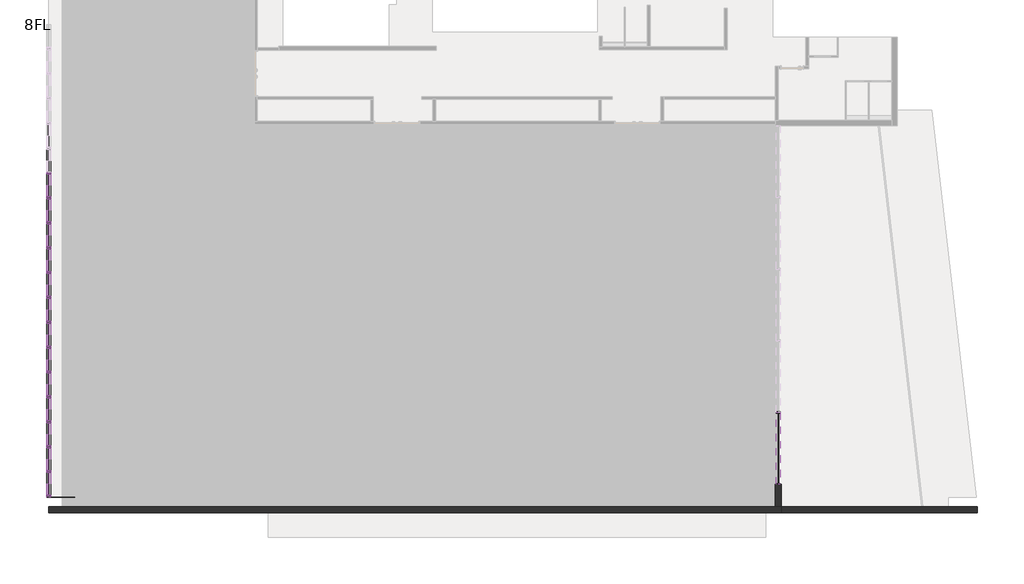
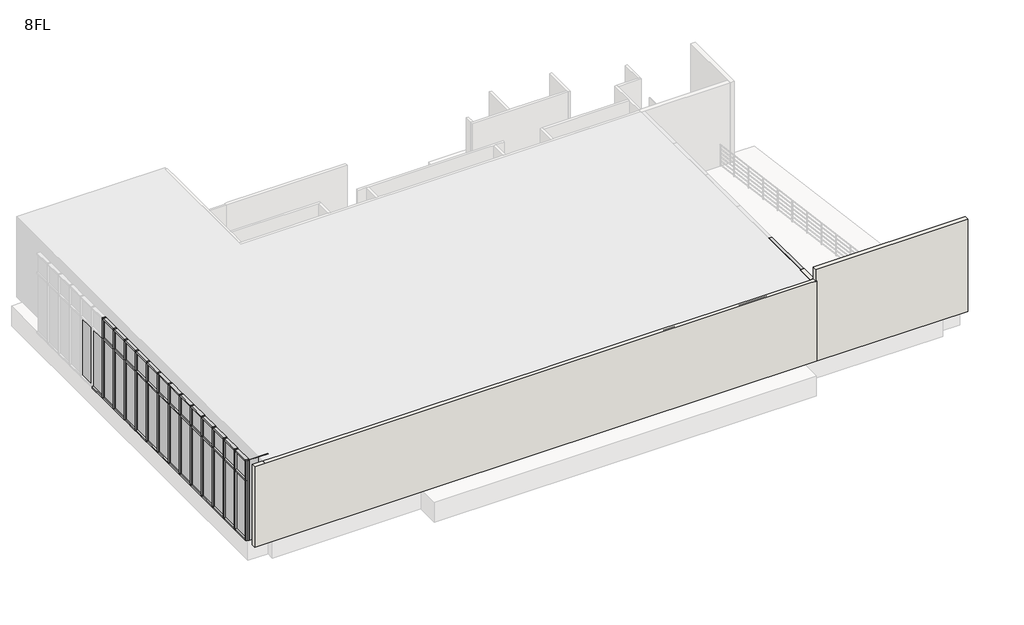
# One storey, part 1 of 3: 71 members, 31 plates, 3 walls.
"""IFC4 building model written with IfcOpenShell, lengths in millimetres."""

from ifc_helpers import new_model, si_unit, frame, origin, place, context, project, spatial, polyline, outline, extrude, faceted_brep, transform, mapped, element, save
from components import member_25x150_64c6ad17, member_25x150_5b56dd58, member_70x150_6224b0b0, member_70x150_cdd4dcf9, member_70x150_66cf63de, member_70x150_26475b18, member_70x150_ad4265bc, member_70x150_76429c73, member_70x150_1b280ac3, plate_d1366ea1, plate_ab860a3c, plate_c3b39e59, plate_28587fd3, plate_396bcf3c

model = new_model("IFC4")

# Units and contexts
model_context = context("Model", 3, world=origin())
ifc_project = project(units=[si_unit("LENGTHUNIT", "METRE", prefix="MILLI")], contexts=[model_context])

# Site, building, storey
site = spatial("IfcSite", under=ifc_project)
building = spatial("IfcBuilding", under=site)
storey = spatial("IfcBuildingStorey", under=building, Name="8FL", Elevation=28600.0)

# Members
placement = place(None, origin())
member_25x150_shape = member_25x150_64c6ad17(model_context)
element("IfcMember", 1, ObjectType="長方形のマリオン : 25x150", at=placement, inside=storey, context=model_context, shape_type="MappedRepresentation", body=[
    mapped(member_25x150_shape, transform((-2945.9784025, -2625.3131013, 32575.0), x_axis=(0.0, -1.0, 0.0), y_axis=(1.0, 0.0, 0.0), z_axis=(0.0, 0.0, 1.0))),
])
member_25x150_2_shape = member_25x150_5b56dd58(model_context)
element("IfcMember", 2, ObjectType="長方形のマリオン : 25x150", at=placement, inside=storey, context=model_context, shape_type="MappedRepresentation", body=[
    mapped(member_25x150_2_shape, transform((-2945.9784025, -30.3131013, 32600.0), x_axis=(0.0, 0.0, 1.0), y_axis=(1.0, 0.0, 0.0), z_axis=(0.0, 1.0, 0.0))),
])
member_70x150_shape = member_70x150_6224b0b0(model_context)
element("IfcMember", 3, ObjectType="長方形のマリオン : 70x150", at=placement, inside=storey, context=model_context, shape_type="MappedRepresentation", body=[
    mapped(member_70x150_shape, transform((-2945.9784025, -30.3131013, 28600.0), x_axis=(0.0, 1.0, 0.0), y_axis=(1.0, 0.0, 0.0), z_axis=(0.0, 0.0, -1.0))),
])
member_70x150_2_shape = member_70x150_cdd4dcf9(model_context)
element("IfcMember", 4, ObjectType="長方形のマリオン : 70x150", at=placement, inside=storey, context=model_context, shape_type="MappedRepresentation", body=[
    mapped(member_70x150_2_shape, transform((-29345.9784025, 8634.6868987, 28600.0), x_axis=(0.0, 1.0, 0.0), y_axis=(1.0, 0.0, 0.0), z_axis=(0.0, 0.0, -1.0))),
])
element("IfcMember", 5, ObjectType="長方形のマリオン : 70x150", at=placement, inside=storey, context=model_context, shape_type="MappedRepresentation", body=[
    mapped(member_70x150_2_shape, transform((-29345.9784025, 7734.6868987, 28600.0), x_axis=(0.0, 1.0, 0.0), y_axis=(1.0, 0.0, 0.0), z_axis=(0.0, 0.0, -1.0))),
])
element("IfcMember", 6, ObjectType="長方形のマリオン : 70x150", at=placement, inside=storey, context=model_context, shape_type="MappedRepresentation", body=[
    mapped(member_70x150_2_shape, transform((-29345.9784025, 6834.6868987, 28600.0), x_axis=(0.0, 1.0, 0.0), y_axis=(1.0, 0.0, 0.0), z_axis=(0.0, 0.0, -1.0))),
])
element("IfcMember", 7, ObjectType="長方形のマリオン : 70x150", at=placement, inside=storey, context=model_context, shape_type="MappedRepresentation", body=[
    mapped(member_70x150_2_shape, transform((-29345.9784025, 5934.6868987, 28600.0), x_axis=(0.0, 1.0, 0.0), y_axis=(1.0, 0.0, 0.0), z_axis=(0.0, 0.0, -1.0))),
])
element("IfcMember", 8, ObjectType="長方形のマリオン : 70x150", at=placement, inside=storey, context=model_context, shape_type="MappedRepresentation", body=[
    mapped(member_70x150_2_shape, transform((-29345.9784025, 5034.6868987, 28600.0), x_axis=(0.0, 1.0, 0.0), y_axis=(1.0, 0.0, 0.0), z_axis=(0.0, 0.0, -1.0))),
])
element("IfcMember", 9, ObjectType="長方形のマリオン : 70x150", at=placement, inside=storey, context=model_context, shape_type="MappedRepresentation", body=[
    mapped(member_70x150_2_shape, transform((-29345.9784025, 4134.6868987, 28600.0), x_axis=(0.0, 1.0, 0.0), y_axis=(1.0, 0.0, 0.0), z_axis=(0.0, 0.0, -1.0))),
])
element("IfcMember", 10, ObjectType="長方形のマリオン : 70x150", at=placement, inside=storey, context=model_context, shape_type="MappedRepresentation", body=[
    mapped(member_70x150_2_shape, transform((-29345.9784025, 3234.6868987, 28600.0), x_axis=(0.0, 1.0, 0.0), y_axis=(1.0, 0.0, 0.0), z_axis=(0.0, 0.0, -1.0))),
])
element("IfcMember", 11, ObjectType="長方形のマリオン : 70x150", at=placement, inside=storey, context=model_context, shape_type="MappedRepresentation", body=[
    mapped(member_70x150_2_shape, transform((-29345.9784025, 2334.6868987, 28600.0), x_axis=(0.0, 1.0, 0.0), y_axis=(1.0, 0.0, 0.0), z_axis=(0.0, 0.0, -1.0))),
])
element("IfcMember", 12, ObjectType="長方形のマリオン : 70x150", at=placement, inside=storey, context=model_context, shape_type="MappedRepresentation", body=[
    mapped(member_70x150_2_shape, transform((-29345.9784025, 1434.6868987, 28600.0), x_axis=(0.0, 1.0, 0.0), y_axis=(1.0, 0.0, 0.0), z_axis=(0.0, 0.0, -1.0))),
])
element("IfcMember", 13, ObjectType="長方形のマリオン : 70x150", at=placement, inside=storey, context=model_context, shape_type="MappedRepresentation", body=[
    mapped(member_70x150_2_shape, transform((-29345.9784025, 534.6868987, 28600.0), x_axis=(0.0, 1.0, 0.0), y_axis=(1.0, 0.0, 0.0), z_axis=(0.0, 0.0, -1.0))),
])
element("IfcMember", 14, ObjectType="長方形のマリオン : 70x150", at=placement, inside=storey, context=model_context, shape_type="MappedRepresentation", body=[
    mapped(member_70x150_2_shape, transform((-29345.9784025, -365.3131013, 28600.0), x_axis=(0.0, 1.0, 0.0), y_axis=(1.0, 0.0, 0.0), z_axis=(0.0, 0.0, -1.0))),
])
element("IfcMember", 15, ObjectType="長方形のマリオン : 70x150", at=placement, inside=storey, context=model_context, shape_type="MappedRepresentation", body=[
    mapped(member_70x150_2_shape, transform((-29345.9784025, -1265.3131013, 28600.0), x_axis=(0.0, 1.0, 0.0), y_axis=(1.0, 0.0, 0.0), z_axis=(0.0, 0.0, -1.0))),
])
element("IfcMember", 16, ObjectType="長方形のマリオン : 70x150", at=placement, inside=storey, context=model_context, shape_type="MappedRepresentation", body=[
    mapped(member_70x150_2_shape, transform((-29345.9784025, -2165.3131013, 28600.0), x_axis=(0.0, 1.0, 0.0), y_axis=(1.0, 0.0, 0.0), z_axis=(0.0, 0.0, -1.0))),
])
member_70x150_3_shape = member_70x150_66cf63de(model_context)
element("IfcMember", 17, ObjectType="長方形のマリオン : 70x150", at=placement, inside=storey, context=model_context, shape_type="MappedRepresentation", body=[
    mapped(member_70x150_3_shape, transform((-29345.9784025, 1469.6868987, 28600.0), x_axis=(0.0, 0.0, -1.0), y_axis=(1.0, 0.0, 0.0), z_axis=(0.0, -1.0, 0.0))),
])
element("IfcMember", 18, ObjectType="長方形のマリオン : 70x150", at=placement, inside=storey, context=model_context, shape_type="MappedRepresentation", body=[
    mapped(member_70x150_3_shape, transform((-29345.9784025, 569.6868987, 28600.0), x_axis=(0.0, 0.0, -1.0), y_axis=(1.0, 0.0, 0.0), z_axis=(0.0, -1.0, 0.0))),
])
element("IfcMember", 19, ObjectType="長方形のマリオン : 70x150", at=placement, inside=storey, context=model_context, shape_type="MappedRepresentation", body=[
    mapped(member_70x150_3_shape, transform((-29345.9784025, -330.3131013, 28600.0), x_axis=(0.0, 0.0, -1.0), y_axis=(1.0, 0.0, 0.0), z_axis=(0.0, -1.0, 0.0))),
])
element("IfcMember", 20, ObjectType="長方形のマリオン : 70x150", at=placement, inside=storey, context=model_context, shape_type="MappedRepresentation", body=[
    mapped(member_70x150_3_shape, transform((-29345.9784025, -1230.3131013, 28600.0), x_axis=(0.0, 0.0, -1.0), y_axis=(1.0, 0.0, 0.0), z_axis=(0.0, -1.0, 0.0))),
])
element("IfcMember", 21, ObjectType="長方形のマリオン : 70x150", at=placement, inside=storey, context=model_context, shape_type="MappedRepresentation", body=[
    mapped(member_70x150_3_shape, transform((-29345.9784025, -2130.3131013, 28600.0), x_axis=(0.0, 0.0, -1.0), y_axis=(1.0, 0.0, 0.0), z_axis=(0.0, -1.0, 0.0))),
])
element("IfcMember", 22, ObjectType="長方形のマリオン : 70x150", at=placement, inside=storey, context=model_context, shape_type="MappedRepresentation", body=[
    mapped(member_70x150_3_shape, transform((-29345.9784025, -3030.3131013, 28600.0), x_axis=(0.0, 0.0, -1.0), y_axis=(1.0, 0.0, 0.0), z_axis=(0.0, -1.0, 0.0))),
])
element("IfcMember", 23, ObjectType="長方形のマリオン : 70x150", at=placement, inside=storey, context=model_context, shape_type="MappedRepresentation", body=[
    mapped(member_70x150_3_shape, transform((-29345.9784025, 8669.6868987, 28600.0), x_axis=(0.0, 0.0, -1.0), y_axis=(1.0, 0.0, 0.0), z_axis=(0.0, -1.0, 0.0))),
])
element("IfcMember", 24, ObjectType="長方形のマリオン : 70x150", at=placement, inside=storey, context=model_context, shape_type="MappedRepresentation", body=[
    mapped(member_70x150_3_shape, transform((-29345.9784025, 7769.6868987, 28600.0), x_axis=(0.0, 0.0, -1.0), y_axis=(1.0, 0.0, 0.0), z_axis=(0.0, -1.0, 0.0))),
])
element("IfcMember", 25, ObjectType="長方形のマリオン : 70x150", at=placement, inside=storey, context=model_context, shape_type="MappedRepresentation", body=[
    mapped(member_70x150_3_shape, transform((-29345.9784025, 6869.6868987, 28600.0), x_axis=(0.0, 0.0, -1.0), y_axis=(1.0, 0.0, 0.0), z_axis=(0.0, -1.0, 0.0))),
])
element("IfcMember", 26, ObjectType="長方形のマリオン : 70x150", at=placement, inside=storey, context=model_context, shape_type="MappedRepresentation", body=[
    mapped(member_70x150_3_shape, transform((-29345.9784025, 5969.6868987, 28600.0), x_axis=(0.0, 0.0, -1.0), y_axis=(1.0, 0.0, 0.0), z_axis=(0.0, -1.0, 0.0))),
])
element("IfcMember", 27, ObjectType="長方形のマリオン : 70x150", at=placement, inside=storey, context=model_context, shape_type="MappedRepresentation", body=[
    mapped(member_70x150_3_shape, transform((-29345.9784025, 5069.6868987, 28600.0), x_axis=(0.0, 0.0, -1.0), y_axis=(1.0, 0.0, 0.0), z_axis=(0.0, -1.0, 0.0))),
])
element("IfcMember", 28, ObjectType="長方形のマリオン : 70x150", at=placement, inside=storey, context=model_context, shape_type="MappedRepresentation", body=[
    mapped(member_70x150_3_shape, transform((-29345.9784025, 4169.6868987, 28600.0), x_axis=(0.0, 0.0, -1.0), y_axis=(1.0, 0.0, 0.0), z_axis=(0.0, -1.0, 0.0))),
])
element("IfcMember", 29, ObjectType="長方形のマリオン : 70x150", at=placement, inside=storey, context=model_context, shape_type="MappedRepresentation", body=[
    mapped(member_70x150_3_shape, transform((-29345.9784025, 3269.6868987, 28600.0), x_axis=(0.0, 0.0, -1.0), y_axis=(1.0, 0.0, 0.0), z_axis=(0.0, -1.0, 0.0))),
])
element("IfcMember", 30, ObjectType="長方形のマリオン : 70x150", at=placement, inside=storey, context=model_context, shape_type="MappedRepresentation", body=[
    mapped(member_70x150_3_shape, transform((-29345.9784025, 2369.6868987, 28600.0), x_axis=(0.0, 0.0, -1.0), y_axis=(1.0, 0.0, 0.0), z_axis=(0.0, -1.0, 0.0))),
])
element("IfcMember", 31, ObjectType="長方形のマリオン : 70x150", at=placement, inside=storey, context=model_context, shape_type="MappedRepresentation", body=[
    mapped(member_70x150_3_shape, transform((-29345.9784025, 8599.6868987, 32600.0), x_axis=(0.0, 0.0, 1.0), y_axis=(1.0, 0.0, 0.0), z_axis=(0.0, 1.0, 0.0))),
])
element("IfcMember", 32, ObjectType="長方形のマリオン : 70x150", at=placement, inside=storey, context=model_context, shape_type="MappedRepresentation", body=[
    mapped(member_70x150_3_shape, transform((-29345.9784025, 7699.6868987, 32600.0), x_axis=(0.0, 0.0, 1.0), y_axis=(1.0, 0.0, 0.0), z_axis=(0.0, 1.0, 0.0))),
])
element("IfcMember", 33, ObjectType="長方形のマリオン : 70x150", at=placement, inside=storey, context=model_context, shape_type="MappedRepresentation", body=[
    mapped(member_70x150_3_shape, transform((-29345.9784025, 6799.6868987, 32600.0), x_axis=(0.0, 0.0, 1.0), y_axis=(1.0, 0.0, 0.0), z_axis=(0.0, 1.0, 0.0))),
])
element("IfcMember", 34, ObjectType="長方形のマリオン : 70x150", at=placement, inside=storey, context=model_context, shape_type="MappedRepresentation", body=[
    mapped(member_70x150_3_shape, transform((-29345.9784025, 5899.6868987, 32600.0), x_axis=(0.0, 0.0, 1.0), y_axis=(1.0, 0.0, 0.0), z_axis=(0.0, 1.0, 0.0))),
])
element("IfcMember", 35, ObjectType="長方形のマリオン : 70x150", at=placement, inside=storey, context=model_context, shape_type="MappedRepresentation", body=[
    mapped(member_70x150_3_shape, transform((-29345.9784025, 4999.6868987, 32600.0), x_axis=(0.0, 0.0, 1.0), y_axis=(1.0, 0.0, 0.0), z_axis=(0.0, 1.0, 0.0))),
])
element("IfcMember", 36, ObjectType="長方形のマリオン : 70x150", at=placement, inside=storey, context=model_context, shape_type="MappedRepresentation", body=[
    mapped(member_70x150_3_shape, transform((-29345.9784025, 4099.6868987, 32600.0), x_axis=(0.0, 0.0, 1.0), y_axis=(1.0, 0.0, 0.0), z_axis=(0.0, 1.0, 0.0))),
])
element("IfcMember", 37, ObjectType="長方形のマリオン : 70x150", at=placement, inside=storey, context=model_context, shape_type="MappedRepresentation", body=[
    mapped(member_70x150_3_shape, transform((-29345.9784025, 3199.6868987, 32600.0), x_axis=(0.0, 0.0, 1.0), y_axis=(1.0, 0.0, 0.0), z_axis=(0.0, 1.0, 0.0))),
])
element("IfcMember", 38, ObjectType="長方形のマリオン : 70x150", at=placement, inside=storey, context=model_context, shape_type="MappedRepresentation", body=[
    mapped(member_70x150_3_shape, transform((-29345.9784025, 2299.6868987, 32600.0), x_axis=(0.0, 0.0, 1.0), y_axis=(1.0, 0.0, 0.0), z_axis=(0.0, 1.0, 0.0))),
])
element("IfcMember", 39, ObjectType="長方形のマリオン : 70x150", at=placement, inside=storey, context=model_context, shape_type="MappedRepresentation", body=[
    mapped(member_70x150_3_shape, transform((-29345.9784025, 1399.6868987, 32600.0), x_axis=(0.0, 0.0, 1.0), y_axis=(1.0, 0.0, 0.0), z_axis=(0.0, 1.0, 0.0))),
])
element("IfcMember", 40, ObjectType="長方形のマリオン : 70x150", at=placement, inside=storey, context=model_context, shape_type="MappedRepresentation", body=[
    mapped(member_70x150_3_shape, transform((-29345.9784025, 499.6868987, 32600.0), x_axis=(0.0, 0.0, 1.0), y_axis=(1.0, 0.0, 0.0), z_axis=(0.0, 1.0, 0.0))),
])
element("IfcMember", 41, ObjectType="長方形のマリオン : 70x150", at=placement, inside=storey, context=model_context, shape_type="MappedRepresentation", body=[
    mapped(member_70x150_3_shape, transform((-29345.9784025, -400.3131013, 32600.0), x_axis=(0.0, 0.0, 1.0), y_axis=(1.0, 0.0, 0.0), z_axis=(0.0, 1.0, 0.0))),
])
element("IfcMember", 42, ObjectType="長方形のマリオン : 70x150", at=placement, inside=storey, context=model_context, shape_type="MappedRepresentation", body=[
    mapped(member_70x150_3_shape, transform((-29345.9784025, -1300.3131013, 32600.0), x_axis=(0.0, 0.0, 1.0), y_axis=(1.0, 0.0, 0.0), z_axis=(0.0, 1.0, 0.0))),
])
element("IfcMember", 43, ObjectType="長方形のマリオン : 70x150", at=placement, inside=storey, context=model_context, shape_type="MappedRepresentation", body=[
    mapped(member_70x150_3_shape, transform((-29345.9784025, -2200.3131013, 32600.0), x_axis=(0.0, 0.0, 1.0), y_axis=(1.0, 0.0, 0.0), z_axis=(0.0, 1.0, 0.0))),
])
member_70x150_4_shape = member_70x150_26475b18(model_context)
element("IfcMember", 44, ObjectType="長方形のマリオン : 70x150", at=placement, inside=storey, context=model_context, shape_type="MappedRepresentation", body=[
    mapped(member_70x150_4_shape, transform((-29345.9784025, 8634.6868987, 31600.0), x_axis=(0.0, 1.0, 0.0), y_axis=(1.0, 0.0, 0.0), z_axis=(0.0, 0.0, -1.0))),
])
element("IfcMember", 45, ObjectType="長方形のマリオン : 70x150", at=placement, inside=storey, context=model_context, shape_type="MappedRepresentation", body=[
    mapped(member_70x150_4_shape, transform((-29345.9784025, 7734.6868987, 31600.0), x_axis=(0.0, 1.0, 0.0), y_axis=(1.0, 0.0, 0.0), z_axis=(0.0, 0.0, -1.0))),
])
element("IfcMember", 46, ObjectType="長方形のマリオン : 70x150", at=placement, inside=storey, context=model_context, shape_type="MappedRepresentation", body=[
    mapped(member_70x150_4_shape, transform((-29345.9784025, 6834.6868987, 31600.0), x_axis=(0.0, 1.0, 0.0), y_axis=(1.0, 0.0, 0.0), z_axis=(0.0, 0.0, -1.0))),
])
element("IfcMember", 47, ObjectType="長方形のマリオン : 70x150", at=placement, inside=storey, context=model_context, shape_type="MappedRepresentation", body=[
    mapped(member_70x150_4_shape, transform((-29345.9784025, 5934.6868987, 31600.0), x_axis=(0.0, 1.0, 0.0), y_axis=(1.0, 0.0, 0.0), z_axis=(0.0, 0.0, -1.0))),
])
element("IfcMember", 48, ObjectType="長方形のマリオン : 70x150", at=placement, inside=storey, context=model_context, shape_type="MappedRepresentation", body=[
    mapped(member_70x150_4_shape, transform((-29345.9784025, 5034.6868987, 31600.0), x_axis=(0.0, 1.0, 0.0), y_axis=(1.0, 0.0, 0.0), z_axis=(0.0, 0.0, -1.0))),
])
element("IfcMember", 49, ObjectType="長方形のマリオン : 70x150", at=placement, inside=storey, context=model_context, shape_type="MappedRepresentation", body=[
    mapped(member_70x150_4_shape, transform((-29345.9784025, 4134.6868987, 31600.0), x_axis=(0.0, 1.0, 0.0), y_axis=(1.0, 0.0, 0.0), z_axis=(0.0, 0.0, -1.0))),
])
element("IfcMember", 50, ObjectType="長方形のマリオン : 70x150", at=placement, inside=storey, context=model_context, shape_type="MappedRepresentation", body=[
    mapped(member_70x150_4_shape, transform((-29345.9784025, 3234.6868987, 31600.0), x_axis=(0.0, 1.0, 0.0), y_axis=(1.0, 0.0, 0.0), z_axis=(0.0, 0.0, -1.0))),
])
element("IfcMember", 51, ObjectType="長方形のマリオン : 70x150", at=placement, inside=storey, context=model_context, shape_type="MappedRepresentation", body=[
    mapped(member_70x150_4_shape, transform((-29345.9784025, 2334.6868987, 31600.0), x_axis=(0.0, 1.0, 0.0), y_axis=(1.0, 0.0, 0.0), z_axis=(0.0, 0.0, -1.0))),
])
element("IfcMember", 52, ObjectType="長方形のマリオン : 70x150", at=placement, inside=storey, context=model_context, shape_type="MappedRepresentation", body=[
    mapped(member_70x150_4_shape, transform((-29345.9784025, 1434.6868987, 31600.0), x_axis=(0.0, 1.0, 0.0), y_axis=(1.0, 0.0, 0.0), z_axis=(0.0, 0.0, -1.0))),
])
element("IfcMember", 53, ObjectType="長方形のマリオン : 70x150", at=placement, inside=storey, context=model_context, shape_type="MappedRepresentation", body=[
    mapped(member_70x150_4_shape, transform((-29345.9784025, 534.6868987, 31600.0), x_axis=(0.0, 1.0, 0.0), y_axis=(1.0, 0.0, 0.0), z_axis=(0.0, 0.0, -1.0))),
])
element("IfcMember", 54, ObjectType="長方形のマリオン : 70x150", at=placement, inside=storey, context=model_context, shape_type="MappedRepresentation", body=[
    mapped(member_70x150_4_shape, transform((-29345.9784025, -365.3131013, 31600.0), x_axis=(0.0, 1.0, 0.0), y_axis=(1.0, 0.0, 0.0), z_axis=(0.0, 0.0, -1.0))),
])
element("IfcMember", 55, ObjectType="長方形のマリオン : 70x150", at=placement, inside=storey, context=model_context, shape_type="MappedRepresentation", body=[
    mapped(member_70x150_4_shape, transform((-29345.9784025, -1265.3131013, 31600.0), x_axis=(0.0, 1.0, 0.0), y_axis=(1.0, 0.0, 0.0), z_axis=(0.0, 0.0, -1.0))),
])
element("IfcMember", 56, ObjectType="長方形のマリオン : 70x150", at=placement, inside=storey, context=model_context, shape_type="MappedRepresentation", body=[
    mapped(member_70x150_4_shape, transform((-29345.9784025, -2165.3131013, 31600.0), x_axis=(0.0, 1.0, 0.0), y_axis=(1.0, 0.0, 0.0), z_axis=(0.0, 0.0, -1.0))),
])
member_70x150_5_shape = member_70x150_ad4265bc(model_context)
element("IfcMember", 57, ObjectType="長方形のマリオン : 70x150", at=placement, inside=storey, context=model_context, shape_type="MappedRepresentation", body=[
    mapped(member_70x150_5_shape, transform((-29345.9784025, 8599.6868987, 31600.0), x_axis=(0.0, 0.0, 1.0), y_axis=(1.0, 0.0, 0.0), z_axis=(0.0, 1.0, 0.0))),
])
element("IfcMember", 58, ObjectType="長方形のマリオン : 70x150", at=placement, inside=storey, context=model_context, shape_type="MappedRepresentation", body=[
    mapped(member_70x150_5_shape, transform((-29345.9784025, 7699.6868987, 31600.0), x_axis=(0.0, 0.0, 1.0), y_axis=(1.0, 0.0, 0.0), z_axis=(0.0, 1.0, 0.0))),
])
element("IfcMember", 59, ObjectType="長方形のマリオン : 70x150", at=placement, inside=storey, context=model_context, shape_type="MappedRepresentation", body=[
    mapped(member_70x150_5_shape, transform((-29345.9784025, 6799.6868987, 31600.0), x_axis=(0.0, 0.0, 1.0), y_axis=(1.0, 0.0, 0.0), z_axis=(0.0, 1.0, 0.0))),
])
element("IfcMember", 60, ObjectType="長方形のマリオン : 70x150", at=placement, inside=storey, context=model_context, shape_type="MappedRepresentation", body=[
    mapped(member_70x150_5_shape, transform((-29345.9784025, 5899.6868987, 31600.0), x_axis=(0.0, 0.0, 1.0), y_axis=(1.0, 0.0, 0.0), z_axis=(0.0, 1.0, 0.0))),
])
element("IfcMember", 61, ObjectType="長方形のマリオン : 70x150", at=placement, inside=storey, context=model_context, shape_type="MappedRepresentation", body=[
    mapped(member_70x150_5_shape, transform((-29345.9784025, 4999.6868987, 31600.0), x_axis=(0.0, 0.0, 1.0), y_axis=(1.0, 0.0, 0.0), z_axis=(0.0, 1.0, 0.0))),
])
element("IfcMember", 62, ObjectType="長方形のマリオン : 70x150", at=placement, inside=storey, context=model_context, shape_type="MappedRepresentation", body=[
    mapped(member_70x150_5_shape, transform((-29345.9784025, 4099.6868987, 31600.0), x_axis=(0.0, 0.0, 1.0), y_axis=(1.0, 0.0, 0.0), z_axis=(0.0, 1.0, 0.0))),
])
element("IfcMember", 63, ObjectType="長方形のマリオン : 70x150", at=placement, inside=storey, context=model_context, shape_type="MappedRepresentation", body=[
    mapped(member_70x150_5_shape, transform((-29345.9784025, 3199.6868987, 31600.0), x_axis=(0.0, 0.0, 1.0), y_axis=(1.0, 0.0, 0.0), z_axis=(0.0, 1.0, 0.0))),
])
element("IfcMember", 64, ObjectType="長方形のマリオン : 70x150", at=placement, inside=storey, context=model_context, shape_type="MappedRepresentation", body=[
    mapped(member_70x150_5_shape, transform((-29345.9784025, 2299.6868987, 31600.0), x_axis=(0.0, 0.0, 1.0), y_axis=(1.0, 0.0, 0.0), z_axis=(0.0, 1.0, 0.0))),
])
element("IfcMember", 65, ObjectType="長方形のマリオン : 70x150", at=placement, inside=storey, context=model_context, shape_type="MappedRepresentation", body=[
    mapped(member_70x150_5_shape, transform((-29345.9784025, 1399.6868987, 31600.0), x_axis=(0.0, 0.0, 1.0), y_axis=(1.0, 0.0, 0.0), z_axis=(0.0, 1.0, 0.0))),
])
element("IfcMember", 66, ObjectType="長方形のマリオン : 70x150", at=placement, inside=storey, context=model_context, shape_type="MappedRepresentation", body=[
    mapped(member_70x150_5_shape, transform((-29345.9784025, 499.6868987, 31600.0), x_axis=(0.0, 0.0, 1.0), y_axis=(1.0, 0.0, 0.0), z_axis=(0.0, 1.0, 0.0))),
])
element("IfcMember", 67, ObjectType="長方形のマリオン : 70x150", at=placement, inside=storey, context=model_context, shape_type="MappedRepresentation", body=[
    mapped(member_70x150_5_shape, transform((-29345.9784025, -400.3131013, 31600.0), x_axis=(0.0, 0.0, 1.0), y_axis=(1.0, 0.0, 0.0), z_axis=(0.0, 1.0, 0.0))),
])
element("IfcMember", 68, ObjectType="長方形のマリオン : 70x150", at=placement, inside=storey, context=model_context, shape_type="MappedRepresentation", body=[
    mapped(member_70x150_5_shape, transform((-29345.9784025, -1300.3131013, 31600.0), x_axis=(0.0, 0.0, 1.0), y_axis=(1.0, 0.0, 0.0), z_axis=(0.0, 1.0, 0.0))),
])
element("IfcMember", 69, ObjectType="長方形のマリオン : 70x150", at=placement, inside=storey, context=model_context, shape_type="MappedRepresentation", body=[
    mapped(member_70x150_5_shape, transform((-29345.9784025, -2200.3131013, 31600.0), x_axis=(0.0, 0.0, 1.0), y_axis=(1.0, 0.0, 0.0), z_axis=(0.0, 1.0, 0.0))),
])
member_70x150_6_shape = member_70x150_76429c73(model_context)
element("IfcMember", 70, ObjectType="長方形のマリオン : 70x150", at=placement, inside=storey, context=model_context, shape_type="MappedRepresentation", body=[
    mapped(member_70x150_6_shape, transform((-29345.9784025, -3100.3131013, 32600.0), x_axis=(0.0, -1.0, 0.0), y_axis=(1.0, 0.0, 0.0), z_axis=(0.0, 0.0, 1.0))),
])
member_70x150_7_shape = member_70x150_1b280ac3(model_context)
element("IfcMember", 71, ObjectType="長方形のマリオン : 70x150", at=placement, inside=storey, context=model_context, shape_type="MappedRepresentation", body=[
    mapped(member_70x150_7_shape, transform((-29345.9784025, -3100.3131013, 31600.0), x_axis=(0.0, -1.0, 0.0), y_axis=(1.0, 0.0, 0.0), z_axis=(0.0, 0.0, 1.0))),
])

# Plates
plate_shape = plate_d1366ea1(model_context)
element("IfcPlate", 72, ObjectType="システム パネル : 標準", at=placement, inside=storey, context=model_context, shape_type="MappedRepresentation", body=[
    mapped(plate_shape, transform((-28845.9784025, -3100.3131013, 28600.0), x_axis=(-1.0, 0.0, 0.0), y_axis=(0.0, -1.0, 0.0), z_axis=(0.0, 0.0, 1.0))),
])
plate_2_shape = plate_ab860a3c(model_context)
element("IfcPlate", 73, ObjectType="システム パネル : 標準", at=placement, inside=storey, context=model_context, shape_type="MappedRepresentation", body=[
    mapped(plate_2_shape, transform((-29320.9784025, -3100.3131013, 28600.0), x_axis=(-1.0, 0.0, 0.0), y_axis=(0.0, -1.0, 0.0), z_axis=(0.0, 0.0, 1.0))),
])
plate_3_shape = plate_c3b39e59(model_context)
element("IfcPlate", 74, ObjectType="r パネル FIX 下框付 : 框 H100", at=placement, inside=storey, context=model_context, shape_type="MappedRepresentation", body=[
    mapped(plate_3_shape, transform((-2945.9784025, -1332.8131013, 28600.0), x_axis=(0.0, 1.0, 0.0), y_axis=(-1.0, 0.0, 0.0), z_axis=(0.0, 0.0, 1.0))),
])
plate_4_shape = plate_28587fd3(model_context)
element("IfcPlate", 75, ObjectType="システム パネル : 標準", at=placement, inside=storey, context=model_context, shape_type="MappedRepresentation", body=[
    mapped(plate_4_shape, transform((-29345.9784025, -2615.3131013, 28670.0), x_axis=(0.0, 1.0, 0.0), y_axis=(-1.0, 0.0, 0.0), z_axis=(0.0, 0.0, 1.0))),
])
element("IfcPlate", 76, ObjectType="システム パネル : 標準", at=placement, inside=storey, context=model_context, shape_type="MappedRepresentation", body=[
    mapped(plate_4_shape, transform((-29345.9784025, -1715.3131013, 28670.0), x_axis=(0.0, 1.0, 0.0), y_axis=(-1.0, 0.0, 0.0), z_axis=(0.0, 0.0, 1.0))),
])
element("IfcPlate", 77, ObjectType="システム パネル : 標準", at=placement, inside=storey, context=model_context, shape_type="MappedRepresentation", body=[
    mapped(plate_4_shape, transform((-29345.9784025, -815.3131013, 28670.0), x_axis=(0.0, 1.0, 0.0), y_axis=(-1.0, 0.0, 0.0), z_axis=(0.0, 0.0, 1.0))),
])
element("IfcPlate", 78, ObjectType="システム パネル : 標準", at=placement, inside=storey, context=model_context, shape_type="MappedRepresentation", body=[
    mapped(plate_4_shape, transform((-29345.9784025, 84.6868987, 28670.0), x_axis=(0.0, 1.0, 0.0), y_axis=(-1.0, 0.0, 0.0), z_axis=(0.0, 0.0, 1.0))),
])
element("IfcPlate", 79, ObjectType="システム パネル : 標準", at=placement, inside=storey, context=model_context, shape_type="MappedRepresentation", body=[
    mapped(plate_4_shape, transform((-29345.9784025, 984.6868987, 28670.0), x_axis=(0.0, 1.0, 0.0), y_axis=(-1.0, 0.0, 0.0), z_axis=(0.0, 0.0, 1.0))),
])
element("IfcPlate", 80, ObjectType="システム パネル : 標準", at=placement, inside=storey, context=model_context, shape_type="MappedRepresentation", body=[
    mapped(plate_4_shape, transform((-29345.9784025, 1884.6868987, 28670.0), x_axis=(0.0, 1.0, 0.0), y_axis=(-1.0, 0.0, 0.0), z_axis=(0.0, 0.0, 1.0))),
])
element("IfcPlate", 81, ObjectType="システム パネル : 標準", at=placement, inside=storey, context=model_context, shape_type="MappedRepresentation", body=[
    mapped(plate_4_shape, transform((-29345.9784025, 2784.6868987, 28670.0), x_axis=(0.0, 1.0, 0.0), y_axis=(-1.0, 0.0, 0.0), z_axis=(0.0, 0.0, 1.0))),
])
element("IfcPlate", 82, ObjectType="システム パネル : 標準", at=placement, inside=storey, context=model_context, shape_type="MappedRepresentation", body=[
    mapped(plate_4_shape, transform((-29345.9784025, 3684.6868987, 28670.0), x_axis=(0.0, 1.0, 0.0), y_axis=(-1.0, 0.0, 0.0), z_axis=(0.0, 0.0, 1.0))),
])
element("IfcPlate", 83, ObjectType="システム パネル : 標準", at=placement, inside=storey, context=model_context, shape_type="MappedRepresentation", body=[
    mapped(plate_4_shape, transform((-29345.9784025, 4584.6868987, 28670.0), x_axis=(0.0, 1.0, 0.0), y_axis=(-1.0, 0.0, 0.0), z_axis=(0.0, 0.0, 1.0))),
])
element("IfcPlate", 84, ObjectType="システム パネル : 標準", at=placement, inside=storey, context=model_context, shape_type="MappedRepresentation", body=[
    mapped(plate_4_shape, transform((-29345.9784025, 5484.6868987, 28670.0), x_axis=(0.0, 1.0, 0.0), y_axis=(-1.0, 0.0, 0.0), z_axis=(0.0, 0.0, 1.0))),
])
element("IfcPlate", 85, ObjectType="システム パネル : 標準", at=placement, inside=storey, context=model_context, shape_type="MappedRepresentation", body=[
    mapped(plate_4_shape, transform((-29345.9784025, 6384.6868987, 28670.0), x_axis=(0.0, 1.0, 0.0), y_axis=(-1.0, 0.0, 0.0), z_axis=(0.0, 0.0, 1.0))),
])
element("IfcPlate", 86, ObjectType="システム パネル : 標準", at=placement, inside=storey, context=model_context, shape_type="MappedRepresentation", body=[
    mapped(plate_4_shape, transform((-29345.9784025, 7284.6868987, 28670.0), x_axis=(0.0, 1.0, 0.0), y_axis=(-1.0, 0.0, 0.0), z_axis=(0.0, 0.0, 1.0))),
])
element("IfcPlate", 87, ObjectType="システム パネル : 標準", at=placement, inside=storey, context=model_context, shape_type="MappedRepresentation", body=[
    mapped(plate_4_shape, transform((-29345.9784025, 8184.6868987, 28670.0), x_axis=(0.0, 1.0, 0.0), y_axis=(-1.0, 0.0, 0.0), z_axis=(0.0, 0.0, 1.0))),
])
element("IfcPlate", 88, ObjectType="システム パネル : 標準", at=placement, inside=storey, context=model_context, shape_type="MappedRepresentation", body=[
    mapped(plate_4_shape, transform((-29345.9784025, 9084.6868987, 28670.0), x_axis=(0.0, 1.0, 0.0), y_axis=(-1.0, 0.0, 0.0), z_axis=(0.0, 0.0, 1.0))),
])
element("IfcPlate", 89, ObjectType="システム パネル : 標準", at=placement, inside=storey, context=model_context, shape_type="MappedRepresentation", body=[
    mapped(plate_4_shape, transform((-29345.9784025, 9984.6868987, 28670.0), x_axis=(0.0, 1.0, 0.0), y_axis=(-1.0, 0.0, 0.0), z_axis=(0.0, 0.0, 1.0))),
])
plate_5_shape = plate_396bcf3c(model_context)
element("IfcPlate", 90, ObjectType="システム パネル : 標準", at=placement, inside=storey, context=model_context, shape_type="MappedRepresentation", body=[
    mapped(plate_5_shape, transform((-29345.9784025, -2615.3131013, 31635.0), x_axis=(0.0, 1.0, 0.0), y_axis=(-1.0, 0.0, 0.0), z_axis=(0.0, 0.0, 1.0))),
])
element("IfcPlate", 91, ObjectType="システム パネル : 標準", at=placement, inside=storey, context=model_context, shape_type="MappedRepresentation", body=[
    mapped(plate_5_shape, transform((-29345.9784025, -1715.3131013, 31635.0), x_axis=(0.0, 1.0, 0.0), y_axis=(-1.0, 0.0, 0.0), z_axis=(0.0, 0.0, 1.0))),
])
element("IfcPlate", 92, ObjectType="システム パネル : 標準", at=placement, inside=storey, context=model_context, shape_type="MappedRepresentation", body=[
    mapped(plate_5_shape, transform((-29345.9784025, -815.3131013, 31635.0), x_axis=(0.0, 1.0, 0.0), y_axis=(-1.0, 0.0, 0.0), z_axis=(0.0, 0.0, 1.0))),
])
element("IfcPlate", 93, ObjectType="システム パネル : 標準", at=placement, inside=storey, context=model_context, shape_type="MappedRepresentation", body=[
    mapped(plate_5_shape, transform((-29345.9784025, 84.6868987, 31635.0), x_axis=(0.0, 1.0, 0.0), y_axis=(-1.0, 0.0, 0.0), z_axis=(0.0, 0.0, 1.0))),
])
element("IfcPlate", 94, ObjectType="システム パネル : 標準", at=placement, inside=storey, context=model_context, shape_type="MappedRepresentation", body=[
    mapped(plate_5_shape, transform((-29345.9784025, 984.6868987, 31635.0), x_axis=(0.0, 1.0, 0.0), y_axis=(-1.0, 0.0, 0.0), z_axis=(0.0, 0.0, 1.0))),
])
element("IfcPlate", 95, ObjectType="システム パネル : 標準", at=placement, inside=storey, context=model_context, shape_type="MappedRepresentation", body=[
    mapped(plate_5_shape, transform((-29345.9784025, 1884.6868987, 31635.0), x_axis=(0.0, 1.0, 0.0), y_axis=(-1.0, 0.0, 0.0), z_axis=(0.0, 0.0, 1.0))),
])
element("IfcPlate", 96, ObjectType="システム パネル : 標準", at=placement, inside=storey, context=model_context, shape_type="MappedRepresentation", body=[
    mapped(plate_5_shape, transform((-29345.9784025, 2784.6868987, 31635.0), x_axis=(0.0, 1.0, 0.0), y_axis=(-1.0, 0.0, 0.0), z_axis=(0.0, 0.0, 1.0))),
])
element("IfcPlate", 97, ObjectType="システム パネル : 標準", at=placement, inside=storey, context=model_context, shape_type="MappedRepresentation", body=[
    mapped(plate_5_shape, transform((-29345.9784025, 3684.6868987, 31635.0), x_axis=(0.0, 1.0, 0.0), y_axis=(-1.0, 0.0, 0.0), z_axis=(0.0, 0.0, 1.0))),
])
element("IfcPlate", 98, ObjectType="システム パネル : 標準", at=placement, inside=storey, context=model_context, shape_type="MappedRepresentation", body=[
    mapped(plate_5_shape, transform((-29345.9784025, 4584.6868987, 31635.0), x_axis=(0.0, 1.0, 0.0), y_axis=(-1.0, 0.0, 0.0), z_axis=(0.0, 0.0, 1.0))),
])
element("IfcPlate", 99, ObjectType="システム パネル : 標準", at=placement, inside=storey, context=model_context, shape_type="MappedRepresentation", body=[
    mapped(plate_5_shape, transform((-29345.9784025, 5484.6868987, 31635.0), x_axis=(0.0, 1.0, 0.0), y_axis=(-1.0, 0.0, 0.0), z_axis=(0.0, 0.0, 1.0))),
])
element("IfcPlate", 100, ObjectType="システム パネル : 標準", at=placement, inside=storey, context=model_context, shape_type="MappedRepresentation", body=[
    mapped(plate_5_shape, transform((-29345.9784025, 6384.6868987, 31635.0), x_axis=(0.0, 1.0, 0.0), y_axis=(-1.0, 0.0, 0.0), z_axis=(0.0, 0.0, 1.0))),
])
element("IfcPlate", 101, ObjectType="システム パネル : 標準", at=placement, inside=storey, context=model_context, shape_type="MappedRepresentation", body=[
    mapped(plate_5_shape, transform((-29345.9784025, 7284.6868987, 31635.0), x_axis=(0.0, 1.0, 0.0), y_axis=(-1.0, 0.0, 0.0), z_axis=(0.0, 0.0, 1.0))),
])
element("IfcPlate", 102, ObjectType="システム パネル : 標準", at=placement, inside=storey, context=model_context, shape_type="MappedRepresentation", body=[
    mapped(plate_5_shape, transform((-29345.9784025, 8184.6868987, 31635.0), x_axis=(0.0, 1.0, 0.0), y_axis=(-1.0, 0.0, 0.0), z_axis=(0.0, 0.0, 1.0))),
])

# Walls
element("IfcWall", 103, ObjectType="標準200", at=placement, inside=storey, context=model_context, shape_type="SweptSolid", body=[
    extrude(outline(polyline([(28600.0, 4261.9595949), (33200.0, 4261.9595949), (33200.0, -2895.9784025), (32600.0, -2895.9784025), (32600.0, -2845.9784025), (28600.0, -2845.9784025), (28600.0, 4261.9595949)])), frame((0.0, -3650.3131013, 0.0), z_axis=(0.0, 1.0, 0.0), x_axis=(0.0, 0.0, 1.0)), (0.0, 0.0, 1.0), 200.0),
])
element("IfcWall", 104, ObjectType="標準200", at=placement, inside=storey, context=model_context, shape_type="Brep", body=[
    faceted_brep([(-2845.9784025, -3450.3131013, 28600.0), (-2845.9784025, -2625.3131013, 28600.0), (-2845.9784025, -2625.3131013, 32600.0), (-2845.9784025, -3450.3131013, 32600.0), (-3045.9784025, -3450.3131013, 28600.0), (-3045.9784025, -3450.3131013, 32600.0), (-3045.9784025, -2650.3131013, 32600.0), (-3045.9784025, -2625.3131013, 32600.0), (-3045.9784025, -2625.3131013, 28600.0), (-3045.9784025, -2650.3131013, 28600.0), (-2945.9784025, -3450.3131013, 28600.0), (-2945.9784025, -3450.3131013, 32600.0)], [[[0, 1, 2, 3]], [[4, 5, 6, 7, 8, 9]], [[1, 0, 10, 4, 9, 8]], [[2, 1, 8, 7]], [[3, 2, 7, 6, 5, 11]], [[0, 3, 11, 5, 4, 10]]]),
])
element("IfcWall", 105, ObjectType="標準200", at=placement, inside=storey, context=model_context, shape_type="Brep", body=[
    faceted_brep([(-2845.9784025, -3450.3131013, 28600.0), (-3045.9784025, -3450.3131013, 28600.0), (-8945.9784025, -3450.3131013, 28600.0), (-9845.9784025, -3450.3131013, 28600.0), (-14945.9784025, -3450.3131013, 28600.0), (-15845.9784025, -3450.3131013, 28600.0), (-20945.9784025, -3450.3131013, 28600.0), (-21395.9784025, -3450.3131013, 28600.0), (-29345.9784025, -3450.3131013, 28600.0), (-29345.9784025, -3450.3131013, 32600.0), (-28845.9784025, -3450.3131013, 32600.0), (-27945.9784025, -3450.3131013, 32600.0), (-21845.9784025, -3450.3131013, 32600.0), (-20945.9784025, -3450.3131013, 32600.0), (-15845.9784025, -3450.3131013, 32600.0), (-14945.9784025, -3450.3131013, 32600.0), (-9845.9784025, -3450.3131013, 32600.0), (-8945.9784025, -3450.3131013, 32600.0), (-3095.9784025, -3450.3131013, 32600.0), (-3045.9784025, -3450.3131013, 32600.0), (-2895.9784025, -3450.3131013, 32600.0), (-2845.9784025, -3450.3131013, 32600.0), (-29345.9784025, -3650.3131013, 28600.0), (-21395.9784025, -3650.3131013, 28600.0), (-2845.9784025, -3650.3131013, 28600.0), (-2845.9784025, -3650.3131013, 32600.0), (-2895.9784025, -3650.3131013, 32600.0), (-3095.9784025, -3650.3131013, 32600.0), (-28845.9784025, -3650.3131013, 32600.0), (-29345.9784025, -3650.3131013, 32600.0)], [[[0, 1, 2, 3, 4, 5, 6, 7, 8, 9, 10, 11, 12, 13, 14, 15, 16, 17, 18, 19, 20, 21]], [[22, 23, 24, 25, 26, 27, 28, 29]], [[8, 7, 6, 5, 4, 3, 2, 1, 0, 24, 23, 22]], [[9, 8, 22, 29]], [[9, 29, 28, 27, 26, 25, 21, 20, 19, 18, 17, 16, 15, 14, 13, 12, 11, 10]], [[0, 21, 25, 24]]]),
])

save(model, "model.ifc")
